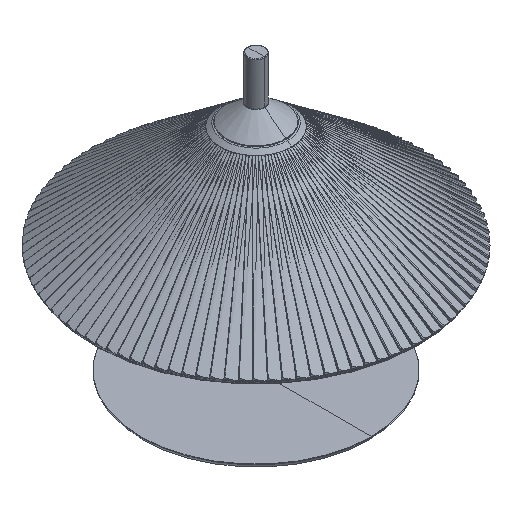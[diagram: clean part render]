
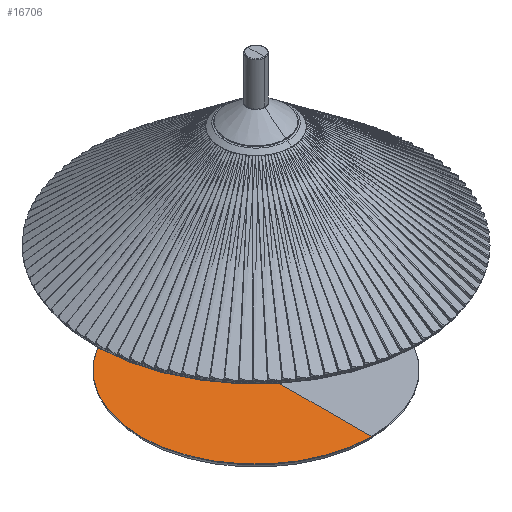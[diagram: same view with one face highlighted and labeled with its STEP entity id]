
A CAD part, isometric view. The second image highlights one B-rep face of the part: STEP entity #16706.
In plain terms, the highlighted planar face has unit normal (0, 0, 1).
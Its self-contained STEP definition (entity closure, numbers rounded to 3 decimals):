
#2230=PLANE('',#18036);
#3325=FACE_OUTER_BOUND('',#4424,.T.);
#4424=EDGE_LOOP('',(#15502,#15503,#15504,#15505));
#4644=CIRCLE('',#18024,14.998);
#4647=CIRCLE('',#18029,199.518);
#5799=LINE('',#35602,#6950);
#5800=LINE('',#35603,#6951);
#6950=VECTOR('',#21620,304.8);
#6951=VECTOR('',#21621,304.8);
#8425=VERTEX_POINT('',#35496);
#8426=VERTEX_POINT('',#35498);
#8427=VERTEX_POINT('',#35504);
#8428=VERTEX_POINT('',#35505);
#10778=EDGE_CURVE('',#8425,#8426,#4644,.T.);
#10783=EDGE_CURVE('',#8428,#8427,#4647,.T.);
#10789=EDGE_CURVE('',#8427,#8425,#5799,.T.);
#10790=EDGE_CURVE('',#8426,#8428,#5800,.T.);
#15502=ORIENTED_EDGE('',*,*,#10778,.T.);
#15503=ORIENTED_EDGE('',*,*,#10790,.T.);
#15504=ORIENTED_EDGE('',*,*,#10783,.T.);
#15505=ORIENTED_EDGE('',*,*,#10789,.T.);
#16706=ADVANCED_FACE('',(#3325),#2230,.T.);
#18024=AXIS2_PLACEMENT_3D('',#35502,#21594,#21595);
#18029=AXIS2_PLACEMENT_3D('',#35591,#21604,#21605);
#18036=AXIS2_PLACEMENT_3D('',#35604,#21622,#21623);
#21594=DIRECTION('center_axis',(0.,0.,-1.));
#21595=DIRECTION('ref_axis',(0.,1.,0.));
#21604=DIRECTION('center_axis',(0.,0.,1.));
#21605=DIRECTION('ref_axis',(1.,0.,0.));
#21620=DIRECTION('',(0.,1.,0.));
#21621=DIRECTION('',(0.,1.,0.));
#21622=DIRECTION('center_axis',(0.,0.,1.));
#21623=DIRECTION('ref_axis',(0.,1.,0.));
#35496=CARTESIAN_POINT('',(0.,-14.998,8.));
#35498=CARTESIAN_POINT('',(0.,14.998,8.));
#35502=CARTESIAN_POINT('Origin',(0.,0.,8.));
#35504=CARTESIAN_POINT('',(0.,-199.518,8.));
#35505=CARTESIAN_POINT('',(0.,199.518,8.));
#35591=CARTESIAN_POINT('Origin',(0.,0.,8.));
#35602=CARTESIAN_POINT('',(0.,-199.518,8.));
#35603=CARTESIAN_POINT('',(0.,14.998,8.));
#35604=CARTESIAN_POINT('Origin',(0.,0.,8.));
